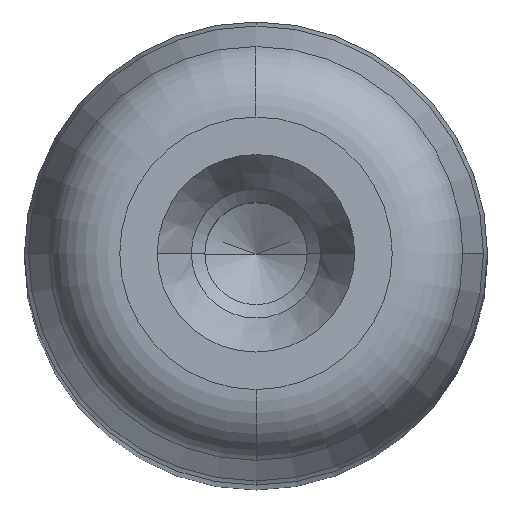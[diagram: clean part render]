
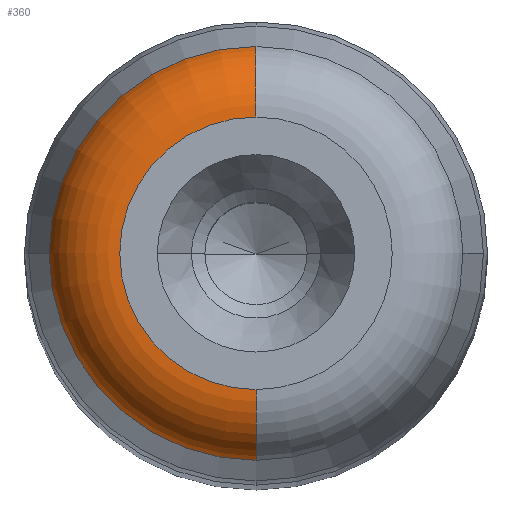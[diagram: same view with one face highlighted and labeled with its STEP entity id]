
A CAD part, top view. The second image highlights one B-rep face of the part: STEP entity #360.
In plain terms, the highlighted toroidal (fillet/blend) face has major radius 5.59 mm and minor radius 3 mm.
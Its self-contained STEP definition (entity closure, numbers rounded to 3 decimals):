
#308=CARTESIAN_POINT('',(0.0,122.0,0.0));
#309=DIRECTION('',(0.0,1.0,0.0));
#310=DIRECTION('',(0.0,0.0,1.0));
#311=AXIS2_PLACEMENT_3D('',#308,#309,#310);
#312=TOROIDAL_SURFACE('',#311,5.59,3.0);
#313=CARTESIAN_POINT('',(0.0,125.0,5.59));
#314=VERTEX_POINT('',#313);
#315=CARTESIAN_POINT('',(0.0,122.776,8.488));
#316=VERTEX_POINT('',#315);
#317=CARTESIAN_POINT('',(0.0,122.0,5.59));
#318=DIRECTION('',(1.0,0.0,0.0));
#319=DIRECTION('',(0.0,0.0,1.0));
#320=AXIS2_PLACEMENT_3D('',#317,#318,#319);
#321=CIRCLE('',#320,3.0);
#322=EDGE_CURVE('',#314,#316,#321,.T.);
#323=ORIENTED_EDGE('',*,*,#322,.F.);
#324=CARTESIAN_POINT('',(0.,125.0,-5.59));
#325=VERTEX_POINT('',#324);
#326=CARTESIAN_POINT('',(0.0,125.0,0.0));
#327=DIRECTION('',(0.0,1.0,0.0));
#328=DIRECTION('',(1.0,0.0,0.0));
#329=AXIS2_PLACEMENT_3D('',#326,#327,#328);
#330=CIRCLE('',#329,5.59);
#331=EDGE_CURVE('',#325,#314,#330,.T.);
#332=ORIENTED_EDGE('',*,*,#331,.F.);
#333=CARTESIAN_POINT('',(0.,122.776,-8.488));
#334=VERTEX_POINT('',#333);
#335=CARTESIAN_POINT('',(0.,122.0,-5.59));
#336=DIRECTION('',(-1.0,0.0,0.0));
#337=DIRECTION('',(0.0,0.0,-1.0));
#338=AXIS2_PLACEMENT_3D('',#335,#336,#337);
#339=CIRCLE('',#338,3.0);
#340=EDGE_CURVE('',#325,#334,#339,.T.);
#341=ORIENTED_EDGE('',*,*,#340,.T.);
#342=CARTESIAN_POINT('',(-8.488,122.776,0.));
#343=VERTEX_POINT('',#342);
#344=CARTESIAN_POINT('',(0.0,122.776,0.0));
#345=DIRECTION('',(0.0,1.0,0.0));
#346=DIRECTION('',(1.0,0.0,0.0));
#347=AXIS2_PLACEMENT_3D('',#344,#345,#346);
#348=CIRCLE('',#347,8.488);
#349=EDGE_CURVE('',#334,#343,#348,.T.);
#350=ORIENTED_EDGE('',*,*,#349,.T.);
#351=CARTESIAN_POINT('',(0.0,122.776,0.0));
#352=DIRECTION('',(0.0,1.0,0.0));
#353=DIRECTION('',(1.0,0.0,0.0));
#354=AXIS2_PLACEMENT_3D('',#351,#352,#353);
#355=CIRCLE('',#354,8.488);
#356=EDGE_CURVE('',#343,#316,#355,.T.);
#357=ORIENTED_EDGE('',*,*,#356,.T.);
#358=EDGE_LOOP('',(#323,#332,#341,#350,#357));
#359=FACE_OUTER_BOUND('',#358,.T.);
#360=ADVANCED_FACE('',(#359),#312,.T.);
